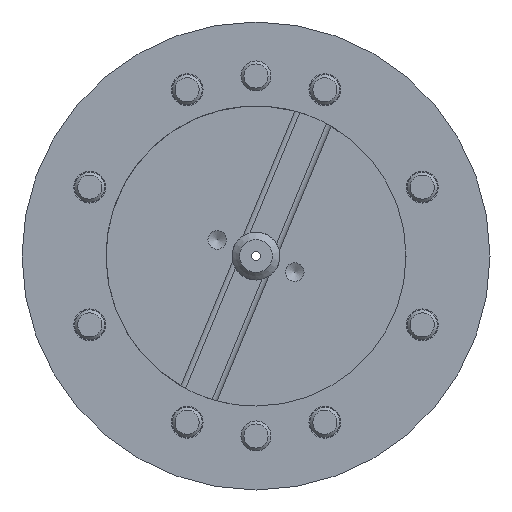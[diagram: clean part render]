
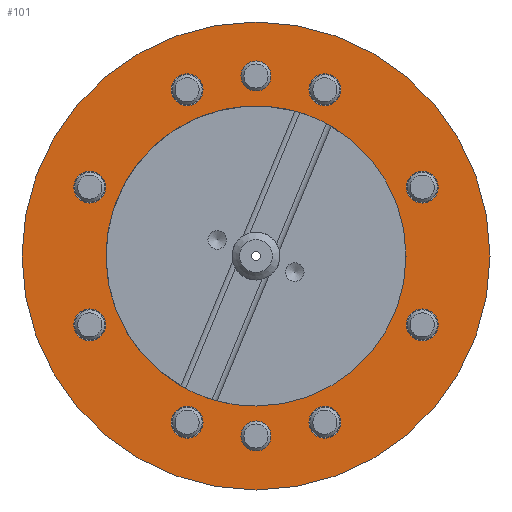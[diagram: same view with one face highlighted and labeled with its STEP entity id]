
A CAD part, front view. The second image highlights one B-rep face of the part: STEP entity #101.
In plain terms, the highlighted planar face has unit normal (0, -1, 0).
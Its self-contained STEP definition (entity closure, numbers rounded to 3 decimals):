
#101 = ADVANCED_FACE( '', ( #340, #341, #342, #343, #344, #345, #346, #347, #348, #349, #350, #351 ), #352, .T. );
#340 = FACE_OUTER_BOUND( '', #820, .T. );
#341 = FACE_BOUND( '', #821, .T. );
#342 = FACE_BOUND( '', #822, .T. );
#343 = FACE_BOUND( '', #823, .T. );
#344 = FACE_BOUND( '', #824, .T. );
#345 = FACE_BOUND( '', #825, .T. );
#346 = FACE_BOUND( '', #826, .T. );
#347 = FACE_BOUND( '', #827, .T. );
#348 = FACE_BOUND( '', #828, .T. );
#349 = FACE_BOUND( '', #829, .T. );
#350 = FACE_BOUND( '', #830, .T. );
#351 = FACE_BOUND( '', #831, .T. );
#352 = PLANE( '', #832 );
#820 = EDGE_LOOP( '', ( #1380 ) );
#821 = EDGE_LOOP( '', ( #1381 ) );
#822 = EDGE_LOOP( '', ( #1382 ) );
#823 = EDGE_LOOP( '', ( #1383 ) );
#824 = EDGE_LOOP( '', ( #1384 ) );
#825 = EDGE_LOOP( '', ( #1385 ) );
#826 = EDGE_LOOP( '', ( #1386 ) );
#827 = EDGE_LOOP( '', ( #1387 ) );
#828 = EDGE_LOOP( '', ( #1388 ) );
#829 = EDGE_LOOP( '', ( #1389 ) );
#830 = EDGE_LOOP( '', ( #1390 ) );
#831 = EDGE_LOOP( '', ( #1391 ) );
#832 = AXIS2_PLACEMENT_3D( '', #1392, #1393, #1394 );
#1380 = ORIENTED_EDGE( '', *, *, #2434, .T. );
#1381 = ORIENTED_EDGE( '', *, *, #2435, .F. );
#1382 = ORIENTED_EDGE( '', *, *, #2436, .F. );
#1383 = ORIENTED_EDGE( '', *, *, #2437, .F. );
#1384 = ORIENTED_EDGE( '', *, *, #2438, .F. );
#1385 = ORIENTED_EDGE( '', *, *, #2439, .F. );
#1386 = ORIENTED_EDGE( '', *, *, #2440, .F. );
#1387 = ORIENTED_EDGE( '', *, *, #2441, .F. );
#1388 = ORIENTED_EDGE( '', *, *, #2442, .F. );
#1389 = ORIENTED_EDGE( '', *, *, #2443, .T. );
#1390 = ORIENTED_EDGE( '', *, *, #2427, .T. );
#1391 = ORIENTED_EDGE( '', *, *, #2444, .F. );
#1392 = CARTESIAN_POINT( '', ( 25., -7., 0. ) );
#1393 = DIRECTION( '', ( 0., -1., 0. ) );
#1394 = DIRECTION( '', ( 0., 0., -1. ) );
#2427 = EDGE_CURVE( '', #2776, #2776, #2777, .F. );
#2434 = EDGE_CURVE( '', #2790, #2790, #2791, .T. );
#2435 = EDGE_CURVE( '', #2792, #2792, #2793, .T. );
#2436 = EDGE_CURVE( '', #2794, #2794, #2795, .T. );
#2437 = EDGE_CURVE( '', #2796, #2796, #2797, .T. );
#2438 = EDGE_CURVE( '', #2798, #2798, #2799, .T. );
#2439 = EDGE_CURVE( '', #2800, #2800, #2801, .T. );
#2440 = EDGE_CURVE( '', #2802, #2802, #2803, .T. );
#2441 = EDGE_CURVE( '', #2804, #2804, #2805, .T. );
#2442 = EDGE_CURVE( '', #2806, #2806, #2807, .T. );
#2443 = EDGE_CURVE( '', #2808, #2808, #2809, .F. );
#2444 = EDGE_CURVE( '', #2810, #2810, #2811, .T. );
#2776 = VERTEX_POINT( '', #3398 );
#2777 = CIRCLE( '', #3399, 2.5 );
#2790 = VERTEX_POINT( '', #3412 );
#2791 = CIRCLE( '', #3413, 39. );
#2792 = VERTEX_POINT( '', #3414 );
#2793 = CIRCLE( '', #3415, 2.65 );
#2794 = VERTEX_POINT( '', #3416 );
#2795 = CIRCLE( '', #3417, 2.65 );
#2796 = VERTEX_POINT( '', #3418 );
#2797 = CIRCLE( '', #3419, 2.65 );
#2798 = VERTEX_POINT( '', #3420 );
#2799 = CIRCLE( '', #3421, 2.65 );
#2800 = VERTEX_POINT( '', #3422 );
#2801 = CIRCLE( '', #3423, 2.65 );
#2802 = VERTEX_POINT( '', #3424 );
#2803 = CIRCLE( '', #3425, 2.65 );
#2804 = VERTEX_POINT( '', #3426 );
#2805 = CIRCLE( '', #3427, 2.65 );
#2806 = VERTEX_POINT( '', #3428 );
#2807 = CIRCLE( '', #3429, 2.65 );
#2808 = VERTEX_POINT( '', #3430 );
#2809 = CIRCLE( '', #3431, 2.5 );
#2810 = VERTEX_POINT( '', #3432 );
#2811 = CIRCLE( '', #3433, 25. );
#3398 = CARTESIAN_POINT( '', ( 0., -7., -32.5 ) );
#3399 = AXIS2_PLACEMENT_3D( '', #4138, #4139, #4140 );
#3412 = CARTESIAN_POINT( '', ( 0., -7., -39. ) );
#3413 = AXIS2_PLACEMENT_3D( '', #4159, #4160, #4161 );
#3414 = CARTESIAN_POINT( '', ( 27.716, -7., -14.131 ) );
#3415 = AXIS2_PLACEMENT_3D( '', #4162, #4163, #4164 );
#3416 = CARTESIAN_POINT( '', ( -11.481, -7., 25.066 ) );
#3417 = AXIS2_PLACEMENT_3D( '', #4165, #4166, #4167 );
#3418 = CARTESIAN_POINT( '', ( 27.716, -7., 8.831 ) );
#3419 = AXIS2_PLACEMENT_3D( '', #4168, #4169, #4170 );
#3420 = CARTESIAN_POINT( '', ( -27.716, -7., -14.131 ) );
#3421 = AXIS2_PLACEMENT_3D( '', #4171, #4172, #4173 );
#3422 = CARTESIAN_POINT( '', ( -27.716, -7., 8.831 ) );
#3423 = AXIS2_PLACEMENT_3D( '', #4174, #4175, #4176 );
#3424 = CARTESIAN_POINT( '', ( 11.481, -7., 25.066 ) );
#3425 = AXIS2_PLACEMENT_3D( '', #4177, #4178, #4179 );
#3426 = CARTESIAN_POINT( '', ( -11.481, -7., -30.366 ) );
#3427 = AXIS2_PLACEMENT_3D( '', #4180, #4181, #4182 );
#3428 = CARTESIAN_POINT( '', ( 11.481, -7., -30.366 ) );
#3429 = AXIS2_PLACEMENT_3D( '', #4183, #4184, #4185 );
#3430 = CARTESIAN_POINT( '', ( 0., -7., 27.5 ) );
#3431 = AXIS2_PLACEMENT_3D( '', #4186, #4187, #4188 );
#3432 = CARTESIAN_POINT( '', ( 0., -7., -25. ) );
#3433 = AXIS2_PLACEMENT_3D( '', #4189, #4190, #4191 );
#4138 = CARTESIAN_POINT( '', ( 0., -7., -30. ) );
#4139 = DIRECTION( '', ( 0., -1., 0. ) );
#4140 = DIRECTION( '', ( 0., 0., -1. ) );
#4159 = CARTESIAN_POINT( '', ( 0., -7., 0. ) );
#4160 = DIRECTION( '', ( 0., -1., 0. ) );
#4161 = DIRECTION( '', ( 0., 0., -1. ) );
#4162 = CARTESIAN_POINT( '', ( 27.716, -7., -11.481 ) );
#4163 = DIRECTION( '', ( 0., -1., 0. ) );
#4164 = DIRECTION( '', ( 0., 0., -1. ) );
#4165 = CARTESIAN_POINT( '', ( -11.481, -7., 27.716 ) );
#4166 = DIRECTION( '', ( 0., -1., 0. ) );
#4167 = DIRECTION( '', ( 0., 0., -1. ) );
#4168 = CARTESIAN_POINT( '', ( 27.716, -7., 11.481 ) );
#4169 = DIRECTION( '', ( 0., -1., 0. ) );
#4170 = DIRECTION( '', ( 0., 0., -1. ) );
#4171 = CARTESIAN_POINT( '', ( -27.716, -7., -11.481 ) );
#4172 = DIRECTION( '', ( 0., -1., 0. ) );
#4173 = DIRECTION( '', ( 0., 0., -1. ) );
#4174 = CARTESIAN_POINT( '', ( -27.716, -7., 11.481 ) );
#4175 = DIRECTION( '', ( 0., -1., 0. ) );
#4176 = DIRECTION( '', ( 0., 0., -1. ) );
#4177 = CARTESIAN_POINT( '', ( 11.481, -7., 27.716 ) );
#4178 = DIRECTION( '', ( 0., -1., 0. ) );
#4179 = DIRECTION( '', ( 0., 0., -1. ) );
#4180 = CARTESIAN_POINT( '', ( -11.481, -7., -27.716 ) );
#4181 = DIRECTION( '', ( 0., -1., 0. ) );
#4182 = DIRECTION( '', ( 0., 0., -1. ) );
#4183 = CARTESIAN_POINT( '', ( 11.481, -7., -27.716 ) );
#4184 = DIRECTION( '', ( 0., -1., 0. ) );
#4185 = DIRECTION( '', ( 0., 0., -1. ) );
#4186 = CARTESIAN_POINT( '', ( 0., -7., 30. ) );
#4187 = DIRECTION( '', ( 0., -1., 0. ) );
#4188 = DIRECTION( '', ( 0., 0., -1. ) );
#4189 = CARTESIAN_POINT( '', ( 0., -7., 0. ) );
#4190 = DIRECTION( '', ( 0., -1., 0. ) );
#4191 = DIRECTION( '', ( 0., 0., -1. ) );
